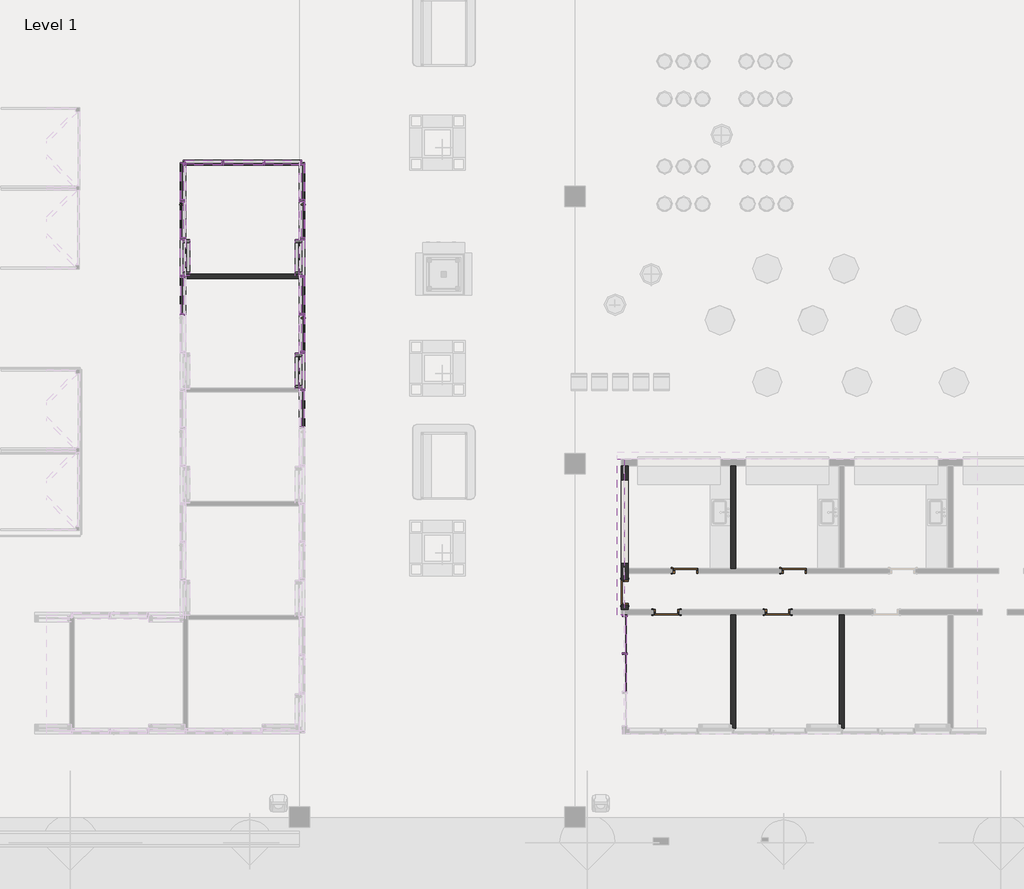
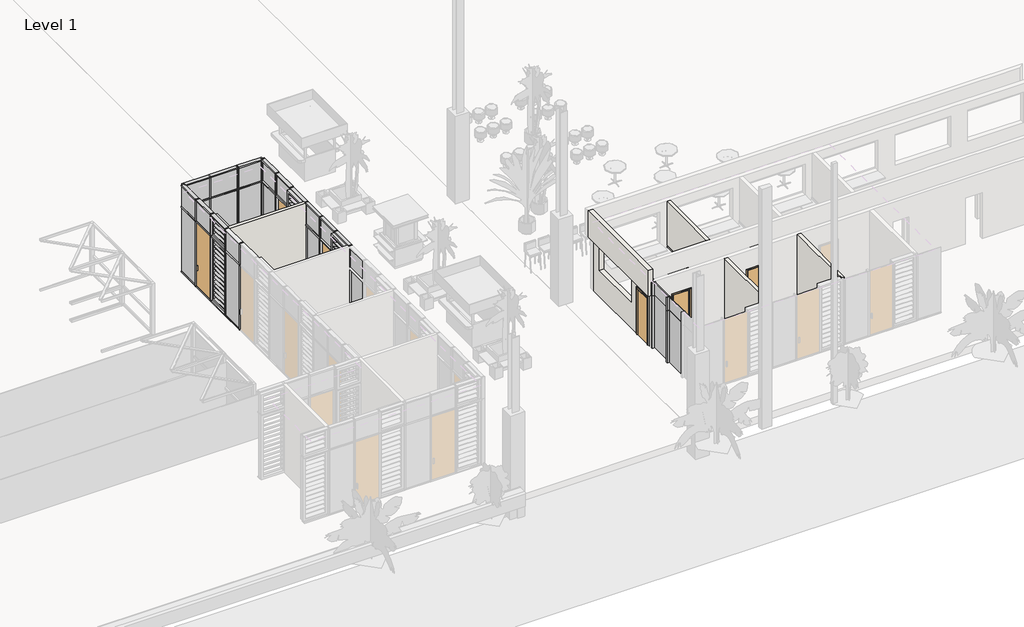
# One storey, part 9 of 32: 72 members, 29 plates, 8 doors, 6 walls.
"""IFC4 building model written with IfcOpenShell, lengths in millimetres."""

from ifc_helpers import new_model, si_unit, frame, origin, place, context, project, spatial, polyline, outline, extrude, faceted_brep, transform, mapped, element, save
from components import curtain_wall_door_single_glass_nz_curtain_wall_door_single_2bf20aac, curtain_wall_door_single_glass_nz_curtain_wall_door_single_ff8afd41, doors_intsgl_1_760x2110mm_a62a0124, doors_intsgl_1_760x2110mm_e27d8b5d, rectangular_mullion_50x150mm_c4504768, rectangular_mullion_50x150mm_6c7cb899, rectangular_mullion_50x150mm_b0af8bb0, rectangular_mullion_50x150mm_bbc1c4ea, rectangular_mullion_50x150mm_1a36453b, rectangular_mullion_50x150mm_a65b6ca2, rectangular_mullion_50x150mm_38419d34, rectangular_mullion_50x150mm_eeb88b28, rectangular_mullion_50x150mm_68c91185, rectangular_mullion_50x150mm_0d540e17, rectangular_mullion_50x150mm_ef3a484d, rectangular_mullion_50x150mm_108cdc6f, rectangular_mullion_50x150mm_593aaa1e, rectangular_mullion_50x150mm_662c37b1, rectangular_mullion_50x150mm_6225e4e3, rectangular_mullion_50x150mm_68b3818a, rectangular_mullion_50x150mm_64d38db8, rectangular_mullion_50x150mm_7b3c9b78, rectangular_mullion_50x150mm_52418214, rectangular_mullion_50x150mm_b6d5a799, rectangular_mullion_50x150mm_a681ed3b, curtain_wall_panel_louver_20805_curtain_wall_panel_louver_4af505d4, curtain_wall_panel_louver_20805_curtain_wall_panel_louver_14332c5b, curtain_wall_panel_glass_louver_20805_curtain_wall_panel_036772b2, curtain_wall_panel_glass_louver_20805_curtain_wall_panel_0f8e40a1, system_panel_glazed_a5e8ce8b, system_panel_glazed_2ffedfca, system_panel_glazed_7622d22c, system_panel_glazed_a434d42b, system_panel_glazed_53fe5bbb, system_panel_glazed_8b38113c, system_panel_glazed_64632876, system_panel_glazed_70b58251, system_panel_glazed_c2ca5c30, system_panel_glazed_300e6ed4, system_panel_glazed_c118dd0e, system_panel_glazed_1d5b51f5, system_panel_glazed_73f042a0, system_panel_solid_585523e5, system_panel_solid_81bf8050, system_panel_solid_746005ab, system_panel_solid_10c0fb46

model = new_model("IFC4")

# Units and contexts
model_context = context("Model", 3, world=origin())
ifc_project = project(units=[si_unit("LENGTHUNIT", "METRE", prefix="MILLI")], contexts=[model_context])

# Site, building, storey
site = spatial("IfcSite", under=ifc_project)
building = spatial("IfcBuilding", under=site)
storey = spatial("IfcBuildingStorey", under=building, Name="Level 1", Elevation=2800.0)

# Doors
placement = place(None, origin())
curtain_wall_door_single_glass_nz_curtain_wall_door_single_shape = curtain_wall_door_single_glass_nz_curtain_wall_door_single_2bf20aac(model_context)
element("IfcDoor", 1, ObjectType="Curtain Wall Door-Single-Glass (NZ) : Curtain Wall Door-Single-Glass (NZ)", at=placement, inside=storey, context=model_context, shape_type="MappedRepresentation", body=[
    mapped(curtain_wall_door_single_glass_nz_curtain_wall_door_single_shape, transform((-55155.3056755, -21755.9199596, 2850.0), x_axis=(0.0, -1.0, 0.0), y_axis=(1.0, 0.0, 0.0), z_axis=(0.0, 0.0, 1.0))),
])
element("IfcDoor", 2, ObjectType="Curtain Wall Door-Single-Glass (NZ) : Curtain Wall Door-Single-Glass (NZ)", at=placement, inside=storey, context=model_context, shape_type="MappedRepresentation", body=[
    mapped(curtain_wall_door_single_glass_nz_curtain_wall_door_single_shape, transform((-55155.3056755, -18455.9199596, 2850.0), x_axis=(0.0, -1.0, 0.0), y_axis=(1.0, 0.0, 0.0), z_axis=(0.0, 0.0, 1.0))),
])
curtain_wall_door_single_glass_nz_curtain_wall_door_single_2_shape = curtain_wall_door_single_glass_nz_curtain_wall_door_single_ff8afd41(model_context)
element("IfcDoor", 3, ObjectType="Curtain Wall Door-Single-Glass (NZ) : Curtain Wall Door-Single-Glass (NZ)", at=placement, inside=storey, context=model_context, shape_type="MappedRepresentation", body=[
    mapped(curtain_wall_door_single_glass_nz_curtain_wall_door_single_2_shape, transform((-58605.3056755, -18455.9199596, 2850.0), x_axis=(0.0, -1.0, 0.0), y_axis=(1.0, 0.0, 0.0), z_axis=(0.0, 0.0, 1.0))),
])
doors_intsgl_1_760x2110mm_shape = doors_intsgl_1_760x2110mm_a62a0124(model_context)
element("IfcDoor", 4, ObjectType="Doors_IntSgl_1 : 760x2110mm", at=placement, inside=storey, context=model_context, shape_type="MappedRepresentation", body=[
    mapped(doors_intsgl_1_760x2110mm_shape, transform((-44575.9339353, -29855.9199596, 2800.0), x_axis=(-1.0, 0.0, 0.0), y_axis=(0.0, -1.0, 0.0), z_axis=(0.0, 0.0, 1.0))),
])
element("IfcDoor", 5, ObjectType="Doors_IntSgl_1 : 760x2110mm", at=placement, inside=storey, context=model_context, shape_type="MappedRepresentation", body=[
    mapped(doors_intsgl_1_760x2110mm_shape, transform((-41350.9339353, -29855.9199596, 2800.0), x_axis=(-1.0, 0.0, 0.0), y_axis=(0.0, -1.0, 0.0), z_axis=(0.0, 0.0, 1.0))),
])
element("IfcDoor", 6, ObjectType="Doors_IntSgl_1 : 760x2110mm", at=placement, inside=storey, context=model_context, shape_type="MappedRepresentation", body=[
    mapped(doors_intsgl_1_760x2110mm_shape, transform((-40871.3056755, -28655.9199596, 2800.0), x_axis=(1.0, 0.0, 0.0), y_axis=(0.0, 1.0, 0.0), z_axis=(0.0, 0.0, 1.0))),
])
element("IfcDoor", 7, ObjectType="Doors_IntSgl_1 : 760x2110mm", at=placement, inside=storey, context=model_context, shape_type="MappedRepresentation", body=[
    mapped(doors_intsgl_1_760x2110mm_shape, transform((-44021.3056755, -28655.9199596, 2800.0), x_axis=(1.0, 0.0, 0.0), y_axis=(0.0, 1.0, 0.0), z_axis=(0.0, 0.0, 1.0))),
])
doors_intsgl_1_760x2110mm_2_shape = doors_intsgl_1_760x2110mm_e27d8b5d(model_context)
element("IfcDoor", 8, ObjectType="Doors_IntSgl_1 : 760x2110mm", at=placement, inside=storey, context=model_context, shape_type="MappedRepresentation", body=[
    mapped(doors_intsgl_1_760x2110mm_2_shape, transform((-45785.9339353, -29280.9199596, 2800.0), x_axis=(0.0, 1.0, 0.0), y_axis=(-1.0, 0.0, 0.0), z_axis=(0.0, 0.0, 1.0))),
])

# Members
rectangular_mullion_50x150mm_shape = rectangular_mullion_50x150mm_c4504768(model_context)
element("IfcMember", 9, ObjectType="Rectangular Mullion : 50x150mm", at=placement, inside=storey, context=model_context, shape_type="MappedRepresentation", body=[
    mapped(rectangular_mullion_50x150mm_shape, transform((-55155.3056755, -23380.9199596, 5800.0), x_axis=(0.0, 0.0, 1.0), y_axis=(-1.0, 0.0, 0.0), z_axis=(0.0, -1.0, 0.0))),
])
element("IfcMember", 10, ObjectType="Rectangular Mullion : 50x150mm", at=placement, inside=storey, context=model_context, shape_type="MappedRepresentation", body=[
    mapped(rectangular_mullion_50x150mm_shape, transform((-55155.3056755, -22280.9199596, 5800.0), x_axis=(0.0, 0.0, 1.0), y_axis=(-1.0, 0.0, 0.0), z_axis=(0.0, -1.0, 0.0))),
])
element("IfcMember", 11, ObjectType="Rectangular Mullion : 50x150mm", at=placement, inside=storey, context=model_context, shape_type="MappedRepresentation", body=[
    mapped(rectangular_mullion_50x150mm_shape, transform((-55155.3056755, -20080.9199596, 5800.0), x_axis=(0.0, 0.0, 1.0), y_axis=(-1.0, 0.0, 0.0), z_axis=(0.0, -1.0, 0.0))),
])
element("IfcMember", 12, ObjectType="Rectangular Mullion : 50x150mm", at=placement, inside=storey, context=model_context, shape_type="MappedRepresentation", body=[
    mapped(rectangular_mullion_50x150mm_shape, transform((-55155.3056755, -18980.9199596, 5800.0), x_axis=(0.0, 0.0, 1.0), y_axis=(-1.0, 0.0, 0.0), z_axis=(0.0, -1.0, 0.0))),
])
element("IfcMember", 13, ObjectType="Rectangular Mullion : 50x150mm", at=placement, inside=storey, context=model_context, shape_type="MappedRepresentation", body=[
    mapped(rectangular_mullion_50x150mm_shape, transform((-55155.3056755, -21180.9199596, 5800.0), x_axis=(0.0, 0.0, 1.0), y_axis=(-1.0, 0.0, 0.0), z_axis=(0.0, -1.0, 0.0))),
])
rectangular_mullion_50x150mm_2_shape = rectangular_mullion_50x150mm_6c7cb899(model_context)
element("IfcMember", 14, ObjectType="Rectangular Mullion : 50x150mm", at=placement, inside=storey, context=model_context, shape_type="MappedRepresentation", body=[
    mapped(rectangular_mullion_50x150mm_2_shape, transform((-55155.3056755, -23405.9199596, 2800.0), x_axis=(0.0, -1.0, 0.0), y_axis=(-1.0, 0.0, 0.0), z_axis=(0.0, 0.0, -1.0))),
])
element("IfcMember", 15, ObjectType="Rectangular Mullion : 50x150mm", at=placement, inside=storey, context=model_context, shape_type="MappedRepresentation", body=[
    mapped(rectangular_mullion_50x150mm_2_shape, transform((-55155.3056755, -22305.9199596, 2800.0), x_axis=(0.0, -1.0, 0.0), y_axis=(-1.0, 0.0, 0.0), z_axis=(0.0, 0.0, -1.0))),
])
element("IfcMember", 16, ObjectType="Rectangular Mullion : 50x150mm", at=placement, inside=storey, context=model_context, shape_type="MappedRepresentation", body=[
    mapped(rectangular_mullion_50x150mm_2_shape, transform((-55155.3056755, -21205.9199596, 2800.0), x_axis=(0.0, -1.0, 0.0), y_axis=(-1.0, 0.0, 0.0), z_axis=(0.0, 0.0, -1.0))),
])
element("IfcMember", 17, ObjectType="Rectangular Mullion : 50x150mm", at=placement, inside=storey, context=model_context, shape_type="MappedRepresentation", body=[
    mapped(rectangular_mullion_50x150mm_2_shape, transform((-55155.3056755, -20105.9199596, 2800.0), x_axis=(0.0, -1.0, 0.0), y_axis=(-1.0, 0.0, 0.0), z_axis=(0.0, 0.0, -1.0))),
])
element("IfcMember", 18, ObjectType="Rectangular Mullion : 50x150mm", at=placement, inside=storey, context=model_context, shape_type="MappedRepresentation", body=[
    mapped(rectangular_mullion_50x150mm_2_shape, transform((-55155.3056755, -19005.9199596, 2800.0), x_axis=(0.0, -1.0, 0.0), y_axis=(-1.0, 0.0, 0.0), z_axis=(0.0, 0.0, -1.0))),
])
element("IfcMember", 19, ObjectType="Rectangular Mullion : 50x150mm", at=placement, inside=storey, context=model_context, shape_type="MappedRepresentation", body=[
    mapped(rectangular_mullion_50x150mm_2_shape, transform((-55155.3056755, -17905.9199596, 2800.0), x_axis=(0.0, -1.0, 0.0), y_axis=(-1.0, 0.0, 0.0), z_axis=(0.0, 0.0, -1.0))),
])
element("IfcMember", 20, ObjectType="Rectangular Mullion : 50x150mm", at=placement, inside=storey, context=model_context, shape_type="MappedRepresentation", body=[
    mapped(rectangular_mullion_50x150mm_2_shape, transform((-56255.3056755, -16805.9199596, 2800.0), x_axis=(-1.0, 0.0, 0.0), y_axis=(0.0, 1.0, 0.0), z_axis=(0.0, 0.0, -1.0))),
])
element("IfcMember", 21, ObjectType="Rectangular Mullion : 50x150mm", at=placement, inside=storey, context=model_context, shape_type="MappedRepresentation", body=[
    mapped(rectangular_mullion_50x150mm_2_shape, transform((-57455.3056753, -16805.9199596, 2800.0), x_axis=(-1.0, 0.0, 0.0), y_axis=(0.0, 1.0, 0.0), z_axis=(0.0, 0.0, -1.0))),
])
rectangular_mullion_50x150mm_3_shape = rectangular_mullion_50x150mm_b0af8bb0(model_context)
element("IfcMember", 22, ObjectType="Rectangular Mullion : 50x150mm", at=placement, inside=storey, context=model_context, shape_type="MappedRepresentation", body=[
    mapped(rectangular_mullion_50x150mm_3_shape, transform((-55155.3056755, -23430.9199596, 2800.0), x_axis=(0.0, 0.0, -1.0), y_axis=(-1.0, 0.0, 0.0), z_axis=(0.0, 1.0, 0.0))),
])
element("IfcMember", 23, ObjectType="Rectangular Mullion : 50x150mm", at=placement, inside=storey, context=model_context, shape_type="MappedRepresentation", body=[
    mapped(rectangular_mullion_50x150mm_3_shape, transform((-55155.3056755, -22330.9199596, 2800.0), x_axis=(0.0, 0.0, -1.0), y_axis=(-1.0, 0.0, 0.0), z_axis=(0.0, 1.0, 0.0))),
])
element("IfcMember", 24, ObjectType="Rectangular Mullion : 50x150mm", at=placement, inside=storey, context=model_context, shape_type="MappedRepresentation", body=[
    mapped(rectangular_mullion_50x150mm_3_shape, transform((-55155.3056755, -21230.9199596, 2800.0), x_axis=(0.0, 0.0, -1.0), y_axis=(-1.0, 0.0, 0.0), z_axis=(0.0, 1.0, 0.0))),
])
element("IfcMember", 25, ObjectType="Rectangular Mullion : 50x150mm", at=placement, inside=storey, context=model_context, shape_type="MappedRepresentation", body=[
    mapped(rectangular_mullion_50x150mm_3_shape, transform((-55155.3056755, -19030.9199596, 2800.0), x_axis=(0.0, 0.0, -1.0), y_axis=(-1.0, 0.0, 0.0), z_axis=(0.0, 1.0, 0.0))),
])
element("IfcMember", 26, ObjectType="Rectangular Mullion : 50x150mm", at=placement, inside=storey, context=model_context, shape_type="MappedRepresentation", body=[
    mapped(rectangular_mullion_50x150mm_3_shape, transform((-55155.3056755, -17930.9199596, 2800.0), x_axis=(0.0, 0.0, -1.0), y_axis=(-1.0, 0.0, 0.0), z_axis=(0.0, 1.0, 0.0))),
])
element("IfcMember", 27, ObjectType="Rectangular Mullion : 50x150mm", at=placement, inside=storey, context=model_context, shape_type="MappedRepresentation", body=[
    mapped(rectangular_mullion_50x150mm_3_shape, transform((-55155.3056755, -20130.9199596, 2800.0), x_axis=(0.0, 0.0, -1.0), y_axis=(-1.0, 0.0, 0.0), z_axis=(0.0, 1.0, 0.0))),
])
rectangular_mullion_50x150mm_4_shape = rectangular_mullion_50x150mm_bbc1c4ea(model_context)
element("IfcMember", 28, ObjectType="Rectangular Mullion : 50x150mm", at=placement, inside=storey, context=model_context, shape_type="MappedRepresentation", body=[
    mapped(rectangular_mullion_50x150mm_4_shape, transform((-55155.3056755, -23405.9199596, 5800.0), x_axis=(0.0, -1.0, 0.0), y_axis=(-1.0, 0.0, 0.0), z_axis=(0.0, 0.0, -1.0))),
])
element("IfcMember", 29, ObjectType="Rectangular Mullion : 50x150mm", at=placement, inside=storey, context=model_context, shape_type="MappedRepresentation", body=[
    mapped(rectangular_mullion_50x150mm_4_shape, transform((-55155.3056755, -22305.9199596, 5800.0), x_axis=(0.0, -1.0, 0.0), y_axis=(-1.0, 0.0, 0.0), z_axis=(0.0, 0.0, -1.0))),
])
element("IfcMember", 30, ObjectType="Rectangular Mullion : 50x150mm", at=placement, inside=storey, context=model_context, shape_type="MappedRepresentation", body=[
    mapped(rectangular_mullion_50x150mm_4_shape, transform((-55155.3056755, -21205.9199596, 5800.0), x_axis=(0.0, -1.0, 0.0), y_axis=(-1.0, 0.0, 0.0), z_axis=(0.0, 0.0, -1.0))),
])
element("IfcMember", 31, ObjectType="Rectangular Mullion : 50x150mm", at=placement, inside=storey, context=model_context, shape_type="MappedRepresentation", body=[
    mapped(rectangular_mullion_50x150mm_4_shape, transform((-55155.3056755, -20105.9199596, 5800.0), x_axis=(0.0, -1.0, 0.0), y_axis=(-1.0, 0.0, 0.0), z_axis=(0.0, 0.0, -1.0))),
])
element("IfcMember", 32, ObjectType="Rectangular Mullion : 50x150mm", at=placement, inside=storey, context=model_context, shape_type="MappedRepresentation", body=[
    mapped(rectangular_mullion_50x150mm_4_shape, transform((-55155.3056755, -19005.9199596, 5800.0), x_axis=(0.0, -1.0, 0.0), y_axis=(-1.0, 0.0, 0.0), z_axis=(0.0, 0.0, -1.0))),
])
element("IfcMember", 33, ObjectType="Rectangular Mullion : 50x150mm", at=placement, inside=storey, context=model_context, shape_type="MappedRepresentation", body=[
    mapped(rectangular_mullion_50x150mm_4_shape, transform((-55155.3056755, -17905.9199596, 5800.0), x_axis=(0.0, -1.0, 0.0), y_axis=(-1.0, 0.0, 0.0), z_axis=(0.0, 0.0, -1.0))),
])
element("IfcMember", 34, ObjectType="Rectangular Mullion : 50x150mm", at=placement, inside=storey, context=model_context, shape_type="MappedRepresentation", body=[
    mapped(rectangular_mullion_50x150mm_4_shape, transform((-56255.3056755, -16805.9199596, 5800.0), x_axis=(-1.0, 0.0, 0.0), y_axis=(0.0, 1.0, 0.0), z_axis=(0.0, 0.0, -1.0))),
])
element("IfcMember", 35, ObjectType="Rectangular Mullion : 50x150mm", at=placement, inside=storey, context=model_context, shape_type="MappedRepresentation", body=[
    mapped(rectangular_mullion_50x150mm_4_shape, transform((-57455.3056753, -16805.9199596, 5800.0), x_axis=(-1.0, 0.0, 0.0), y_axis=(0.0, 1.0, 0.0), z_axis=(0.0, 0.0, -1.0))),
])
rectangular_mullion_50x150mm_5_shape = rectangular_mullion_50x150mm_1a36453b(model_context)
element("IfcMember", 36, ObjectType="Rectangular Mullion : 50x150mm", at=placement, inside=storey, context=model_context, shape_type="MappedRepresentation", body=[
    mapped(rectangular_mullion_50x150mm_5_shape, transform((-55155.3056755, -23380.9199596, 6800.0), x_axis=(0.0, 0.0, 1.0), y_axis=(-1.0, 0.0, 0.0), z_axis=(0.0, -1.0, 0.0))),
])
element("IfcMember", 37, ObjectType="Rectangular Mullion : 50x150mm", at=placement, inside=storey, context=model_context, shape_type="MappedRepresentation", body=[
    mapped(rectangular_mullion_50x150mm_5_shape, transform((-55155.3056755, -22280.9199596, 6800.0), x_axis=(0.0, 0.0, 1.0), y_axis=(-1.0, 0.0, 0.0), z_axis=(0.0, -1.0, 0.0))),
])
element("IfcMember", 38, ObjectType="Rectangular Mullion : 50x150mm", at=placement, inside=storey, context=model_context, shape_type="MappedRepresentation", body=[
    mapped(rectangular_mullion_50x150mm_5_shape, transform((-55155.3056755, -21180.9199596, 6800.0), x_axis=(0.0, 0.0, 1.0), y_axis=(-1.0, 0.0, 0.0), z_axis=(0.0, -1.0, 0.0))),
])
element("IfcMember", 39, ObjectType="Rectangular Mullion : 50x150mm", at=placement, inside=storey, context=model_context, shape_type="MappedRepresentation", body=[
    mapped(rectangular_mullion_50x150mm_5_shape, transform((-55155.3056755, -18980.9199596, 6800.0), x_axis=(0.0, 0.0, 1.0), y_axis=(-1.0, 0.0, 0.0), z_axis=(0.0, -1.0, 0.0))),
])
element("IfcMember", 40, ObjectType="Rectangular Mullion : 50x150mm", at=placement, inside=storey, context=model_context, shape_type="MappedRepresentation", body=[
    mapped(rectangular_mullion_50x150mm_5_shape, transform((-55155.3056755, -20080.9199596, 6800.0), x_axis=(0.0, 0.0, 1.0), y_axis=(-1.0, 0.0, 0.0), z_axis=(0.0, -1.0, 0.0))),
])
rectangular_mullion_50x150mm_6_shape = rectangular_mullion_50x150mm_a65b6ca2(model_context)
element("IfcMember", 41, ObjectType="Rectangular Mullion : 50x150mm", at=placement, inside=storey, context=model_context, shape_type="MappedRepresentation", body=[
    mapped(rectangular_mullion_50x150mm_6_shape, transform((-55155.3056755, -17880.9199596, 6800.0), x_axis=(0.0, 0.0, 1.0), y_axis=(-1.0, 0.0, 0.0), z_axis=(0.0, -1.0, 0.0))),
])
element("IfcMember", 42, ObjectType="Rectangular Mullion : 50x150mm", at=placement, inside=storey, context=model_context, shape_type="MappedRepresentation", body=[
    mapped(rectangular_mullion_50x150mm_6_shape, transform((-56230.3056755, -16805.9199596, 6800.0), x_axis=(0.0, 0.0, 1.0), y_axis=(0.0, 1.0, 0.0), z_axis=(-1.0, 0.0, 0.0))),
])
element("IfcMember", 43, ObjectType="Rectangular Mullion : 50x150mm", at=placement, inside=storey, context=model_context, shape_type="MappedRepresentation", body=[
    mapped(rectangular_mullion_50x150mm_6_shape, transform((-55155.3056755, -16855.9199596, 2800.0), x_axis=(0.0, 0.0, -1.0), y_axis=(-1.0, 0.0, 0.0), z_axis=(0.0, 1.0, 0.0))),
])
element("IfcMember", 44, ObjectType="Rectangular Mullion : 50x150mm", at=placement, inside=storey, context=model_context, shape_type="MappedRepresentation", body=[
    mapped(rectangular_mullion_50x150mm_6_shape, transform((-55205.3056755, -16805.9199596, 2800.0), x_axis=(0.0, 0.0, -1.0), y_axis=(0.0, 1.0, 0.0), z_axis=(1.0, 0.0, 0.0))),
])
rectangular_mullion_50x150mm_7_shape = rectangular_mullion_50x150mm_38419d34(model_context)
element("IfcMember", 45, ObjectType="Rectangular Mullion : 50x150mm", at=placement, inside=storey, context=model_context, shape_type="MappedRepresentation", body=[
    mapped(rectangular_mullion_50x150mm_7_shape, transform((-55155.3056755, -17880.9199596, 5800.0), x_axis=(0.0, 0.0, 1.0), y_axis=(-1.0, 0.0, 0.0), z_axis=(0.0, -1.0, 0.0))),
])
element("IfcMember", 46, ObjectType="Rectangular Mullion : 50x150mm", at=placement, inside=storey, context=model_context, shape_type="MappedRepresentation", body=[
    mapped(rectangular_mullion_50x150mm_7_shape, transform((-56230.3056755, -16805.9199596, 5800.0), x_axis=(0.0, 0.0, 1.0), y_axis=(0.0, 1.0, 0.0), z_axis=(-1.0, 0.0, 0.0))),
])
rectangular_mullion_50x150mm_8_shape = rectangular_mullion_50x150mm_eeb88b28(model_context)
element("IfcMember", 47, ObjectType="Rectangular Mullion : 50x150mm", at=placement, inside=storey, context=model_context, shape_type="MappedRepresentation", body=[
    mapped(rectangular_mullion_50x150mm_8_shape, transform((-55155.3056755, -16805.9199596, 6800.0), x_axis=(0.0, 1.0, 0.0), y_axis=(-1.0, 0.0, 0.0), z_axis=(0.0, 0.0, 1.0))),
])
element("IfcMember", 48, ObjectType="Rectangular Mullion : 50x150mm", at=placement, inside=storey, context=model_context, shape_type="MappedRepresentation", body=[
    mapped(rectangular_mullion_50x150mm_8_shape, transform((-55155.3056755, -16805.9199596, 6800.0), x_axis=(1.0, 0.0, 0.0), y_axis=(0.0, 1.0, 0.0), z_axis=(0.0, 0.0, 1.0))),
])
rectangular_mullion_50x150mm_9_shape = rectangular_mullion_50x150mm_68c91185(model_context)
element("IfcMember", 49, ObjectType="Rectangular Mullion : 50x150mm", at=placement, inside=storey, context=model_context, shape_type="MappedRepresentation", body=[
    mapped(rectangular_mullion_50x150mm_9_shape, transform((-58605.3056755, -16805.9199596, 2800.0), x_axis=(-1.0, 0.0, 0.0), y_axis=(0.0, 1.0, 0.0), z_axis=(0.0, 0.0, -1.0))),
])
element("IfcMember", 50, ObjectType="Rectangular Mullion : 50x150mm", at=placement, inside=storey, context=model_context, shape_type="MappedRepresentation", body=[
    mapped(rectangular_mullion_50x150mm_8_shape, transform((-58605.3056755, -16805.9199596, 5800.0), x_axis=(-1.0, 0.0, 0.0), y_axis=(0.0, 1.0, 0.0), z_axis=(0.0, 0.0, -1.0))),
])
element("IfcMember", 51, ObjectType="Rectangular Mullion : 50x150mm", at=placement, inside=storey, context=model_context, shape_type="MappedRepresentation", body=[
    mapped(rectangular_mullion_50x150mm_9_shape, transform((-55155.3056755, -16805.9199596, 5800.0), x_axis=(0.0, 1.0, 0.0), y_axis=(-1.0, 0.0, 0.0), z_axis=(0.0, 0.0, 1.0))),
])
element("IfcMember", 52, ObjectType="Rectangular Mullion : 50x150mm", at=placement, inside=storey, context=model_context, shape_type="MappedRepresentation", body=[
    mapped(rectangular_mullion_50x150mm_9_shape, transform((-55155.3056755, -16805.9199596, 5800.0), x_axis=(1.0, 0.0, 0.0), y_axis=(0.0, 1.0, 0.0), z_axis=(0.0, 0.0, 1.0))),
])
element("IfcMember", 53, ObjectType="Rectangular Mullion : 50x150mm", at=placement, inside=storey, context=model_context, shape_type="MappedRepresentation", body=[
    mapped(rectangular_mullion_50x150mm_4_shape, transform((-58605.3056755, -21205.9199596, 5800.0), x_axis=(0.0, -1.0, 0.0), y_axis=(-1.0, 0.0, 0.0), z_axis=(0.0, 0.0, -1.0))),
])
element("IfcMember", 54, ObjectType="Rectangular Mullion : 50x150mm", at=placement, inside=storey, context=model_context, shape_type="MappedRepresentation", body=[
    mapped(rectangular_mullion_50x150mm_4_shape, transform((-58605.3056755, -20105.9199596, 5800.0), x_axis=(0.0, -1.0, 0.0), y_axis=(-1.0, 0.0, 0.0), z_axis=(0.0, 0.0, -1.0))),
])
element("IfcMember", 55, ObjectType="Rectangular Mullion : 50x150mm", at=placement, inside=storey, context=model_context, shape_type="MappedRepresentation", body=[
    mapped(rectangular_mullion_50x150mm_4_shape, transform((-58605.3056755, -19005.9199596, 5800.0), x_axis=(0.0, -1.0, 0.0), y_axis=(-1.0, 0.0, 0.0), z_axis=(0.0, 0.0, -1.0))),
])
element("IfcMember", 56, ObjectType="Rectangular Mullion : 50x150mm", at=placement, inside=storey, context=model_context, shape_type="MappedRepresentation", body=[
    mapped(rectangular_mullion_50x150mm_4_shape, transform((-58605.3056755, -17905.9199596, 5800.0), x_axis=(0.0, -1.0, 0.0), y_axis=(-1.0, 0.0, 0.0), z_axis=(0.0, 0.0, -1.0))),
])
element("IfcMember", 57, ObjectType="Rectangular Mullion : 50x150mm", at=placement, inside=storey, context=model_context, shape_type="MappedRepresentation", body=[
    mapped(rectangular_mullion_50x150mm_2_shape, transform((-58605.3056755, -21205.9199596, 2800.0), x_axis=(0.0, -1.0, 0.0), y_axis=(-1.0, 0.0, 0.0), z_axis=(0.0, 0.0, -1.0))),
])
element("IfcMember", 58, ObjectType="Rectangular Mullion : 50x150mm", at=placement, inside=storey, context=model_context, shape_type="MappedRepresentation", body=[
    mapped(rectangular_mullion_50x150mm_2_shape, transform((-58605.3056755, -20105.9199596, 2800.0), x_axis=(0.0, -1.0, 0.0), y_axis=(-1.0, 0.0, 0.0), z_axis=(0.0, 0.0, -1.0))),
])
element("IfcMember", 59, ObjectType="Rectangular Mullion : 50x150mm", at=placement, inside=storey, context=model_context, shape_type="MappedRepresentation", body=[
    mapped(rectangular_mullion_50x150mm_2_shape, transform((-58605.3056755, -19005.9199596, 2800.0), x_axis=(0.0, -1.0, 0.0), y_axis=(-1.0, 0.0, 0.0), z_axis=(0.0, 0.0, -1.0))),
])
element("IfcMember", 60, ObjectType="Rectangular Mullion : 50x150mm", at=placement, inside=storey, context=model_context, shape_type="MappedRepresentation", body=[
    mapped(rectangular_mullion_50x150mm_2_shape, transform((-58605.3056755, -17905.9199596, 2800.0), x_axis=(0.0, -1.0, 0.0), y_axis=(-1.0, 0.0, 0.0), z_axis=(0.0, 0.0, -1.0))),
])
rectangular_mullion_50x150mm_10_shape = rectangular_mullion_50x150mm_0d540e17(model_context)
element("IfcMember", 61, ObjectType="Rectangular Mullion : 50x150mm", at=placement, inside=storey, context=model_context, shape_type="MappedRepresentation", body=[
    mapped(rectangular_mullion_50x150mm_10_shape, transform((-58605.3056755, -20080.9199596, 5800.0), x_axis=(0.0, 0.0, 1.0), y_axis=(-1.0, 0.0, 0.0), z_axis=(0.0, -1.0, 0.0))),
])
element("IfcMember", 62, ObjectType="Rectangular Mullion : 50x150mm", at=placement, inside=storey, context=model_context, shape_type="MappedRepresentation", body=[
    mapped(rectangular_mullion_50x150mm_10_shape, transform((-58605.3056755, -18980.9199596, 5800.0), x_axis=(0.0, 0.0, 1.0), y_axis=(-1.0, 0.0, 0.0), z_axis=(0.0, -1.0, 0.0))),
])
rectangular_mullion_50x150mm_11_shape = rectangular_mullion_50x150mm_ef3a484d(model_context)
element("IfcMember", 63, ObjectType="Rectangular Mullion : 50x150mm", at=placement, inside=storey, context=model_context, shape_type="MappedRepresentation", body=[
    mapped(rectangular_mullion_50x150mm_11_shape, transform((-58605.3056755, -17880.9199596, 5800.0), x_axis=(0.0, 0.0, 1.0), y_axis=(-1.0, 0.0, 0.0), z_axis=(0.0, -1.0, 0.0))),
])
rectangular_mullion_50x150mm_12_shape = rectangular_mullion_50x150mm_108cdc6f(model_context)
element("IfcMember", 64, ObjectType="Rectangular Mullion : 50x150mm", at=placement, inside=storey, context=model_context, shape_type="MappedRepresentation", body=[
    mapped(rectangular_mullion_50x150mm_12_shape, transform((-58605.3056755, -19030.9199596, 2800.0), x_axis=(0.0, 0.0, -1.0), y_axis=(-1.0, 0.0, 0.0), z_axis=(0.0, 1.0, 0.0))),
])
element("IfcMember", 65, ObjectType="Rectangular Mullion : 50x150mm", at=placement, inside=storey, context=model_context, shape_type="MappedRepresentation", body=[
    mapped(rectangular_mullion_50x150mm_12_shape, transform((-58605.3056755, -17930.9199596, 2800.0), x_axis=(0.0, 0.0, -1.0), y_axis=(-1.0, 0.0, 0.0), z_axis=(0.0, 1.0, 0.0))),
])
element("IfcMember", 66, ObjectType="Rectangular Mullion : 50x150mm", at=placement, inside=storey, context=model_context, shape_type="MappedRepresentation", body=[
    mapped(rectangular_mullion_50x150mm_12_shape, transform((-58605.3056755, -20130.9199596, 2800.0), x_axis=(0.0, 0.0, -1.0), y_axis=(-1.0, 0.0, 0.0), z_axis=(0.0, 1.0, 0.0))),
])
rectangular_mullion_50x150mm_13_shape = rectangular_mullion_50x150mm_593aaa1e(model_context)
element("IfcMember", 67, ObjectType="Rectangular Mullion : 50x150mm", at=placement, inside=storey, context=model_context, shape_type="MappedRepresentation", body=[
    mapped(rectangular_mullion_50x150mm_13_shape, transform((-58605.3056755, -16805.9199597, 2800.0), x_axis=(0.0, 0.0, -1.0), y_axis=(-1.0, 0.0, 0.0), z_axis=(0.0, 1.0, 0.0))),
])
element("IfcMember", 68, ObjectType="Rectangular Mullion : 50x150mm", at=placement, inside=storey, context=model_context, shape_type="MappedRepresentation", body=[
    mapped(rectangular_mullion_50x150mm_5_shape, transform((-58605.3056755, -18980.9199596, 6800.0), x_axis=(0.0, 0.0, 1.0), y_axis=(-1.0, 0.0, 0.0), z_axis=(0.0, -1.0, 0.0))),
])
element("IfcMember", 69, ObjectType="Rectangular Mullion : 50x150mm", at=placement, inside=storey, context=model_context, shape_type="MappedRepresentation", body=[
    mapped(rectangular_mullion_50x150mm_5_shape, transform((-58605.3056755, -20080.9199596, 6800.0), x_axis=(0.0, 0.0, 1.0), y_axis=(-1.0, 0.0, 0.0), z_axis=(0.0, -1.0, 0.0))),
])
element("IfcMember", 70, ObjectType="Rectangular Mullion : 50x150mm", at=placement, inside=storey, context=model_context, shape_type="MappedRepresentation", body=[
    mapped(rectangular_mullion_50x150mm_13_shape, transform((-58605.3056755, -17880.9199596, 6800.0), x_axis=(0.0, 0.0, 1.0), y_axis=(-1.0, 0.0, 0.0), z_axis=(0.0, -1.0, 0.0))),
])
rectangular_mullion_50x150mm_14_shape = rectangular_mullion_50x150mm_662c37b1(model_context)
element("IfcMember", 71, ObjectType="Rectangular Mullion : 50x150mm", at=placement, inside=storey, context=model_context, shape_type="MappedRepresentation", body=[
    mapped(rectangular_mullion_50x150mm_14_shape, transform((-45785.9339353, -29930.9199596, 5200.0), x_axis=(0.0, 1.0, 0.0), y_axis=(-1.0, 0.0, 0.0), z_axis=(0.0, 0.0, 1.0))),
])
rectangular_mullion_50x150mm_15_shape = rectangular_mullion_50x150mm_6225e4e3(model_context)
element("IfcMember", 72, ObjectType="Rectangular Mullion : 50x150mm", at=placement, inside=storey, context=model_context, shape_type="MappedRepresentation", body=[
    mapped(rectangular_mullion_50x150mm_15_shape, transform((-45785.9339353, -31055.9199597, 2800.0), x_axis=(0.0, -1.0, 0.0), y_axis=(-1.0, 0.0, 0.0), z_axis=(0.0, 0.0, -1.0))),
])
rectangular_mullion_50x150mm_16_shape = rectangular_mullion_50x150mm_68b3818a(model_context)
element("IfcMember", 73, ObjectType="Rectangular Mullion : 50x150mm", at=placement, inside=storey, context=model_context, shape_type="MappedRepresentation", body=[
    mapped(rectangular_mullion_50x150mm_16_shape, transform((-45785.9339353, -31055.9199597, 5200.0), x_axis=(0.0, -1.0, 0.0), y_axis=(-1.0, 0.0, 0.0), z_axis=(0.0, 0.0, -1.0))),
])
rectangular_mullion_50x150mm_17_shape = rectangular_mullion_50x150mm_64d38db8(model_context)
element("IfcMember", 74, ObjectType="Rectangular Mullion : 50x150mm", at=placement, inside=storey, context=model_context, shape_type="MappedRepresentation", body=[
    mapped(rectangular_mullion_50x150mm_17_shape, transform((-45785.9339353, -29930.9199596, 5800.0), x_axis=(0.0, 1.0, 0.0), y_axis=(-1.0, 0.0, 0.0), z_axis=(0.0, 0.0, 1.0))),
])
rectangular_mullion_50x150mm_18_shape = rectangular_mullion_50x150mm_7b3c9b78(model_context)
element("IfcMember", 75, ObjectType="Rectangular Mullion : 50x150mm", at=placement, inside=storey, context=model_context, shape_type="MappedRepresentation", body=[
    mapped(rectangular_mullion_50x150mm_18_shape, transform((-57480.3056753, -16805.9199596, 2800.0), x_axis=(0.0, 0.0, -1.0), y_axis=(0.0, 1.0, 0.0), z_axis=(1.0, 0.0, 0.0))),
])
element("IfcMember", 76, ObjectType="Rectangular Mullion : 50x150mm", at=placement, inside=storey, context=model_context, shape_type="MappedRepresentation", body=[
    mapped(rectangular_mullion_50x150mm_18_shape, transform((-58555.3056755, -16805.9199596, 6800.0), x_axis=(0.0, 0.0, 1.0), y_axis=(0.0, 1.0, 0.0), z_axis=(-1.0, 0.0, 0.0))),
])
rectangular_mullion_50x150mm_19_shape = rectangular_mullion_50x150mm_52418214(model_context)
element("IfcMember", 77, ObjectType="Rectangular Mullion : 50x150mm", at=placement, inside=storey, context=model_context, shape_type="MappedRepresentation", body=[
    mapped(rectangular_mullion_50x150mm_19_shape, transform((-58555.3056755, -16805.9199596, 5800.0), x_axis=(0.0, 0.0, 1.0), y_axis=(0.0, 1.0, 0.0), z_axis=(-1.0, 0.0, 0.0))),
])
rectangular_mullion_50x150mm_20_shape = rectangular_mullion_50x150mm_b6d5a799(model_context)
element("IfcMember", 78, ObjectType="Rectangular Mullion : 50x150mm", at=placement, inside=storey, context=model_context, shape_type="MappedRepresentation", body=[
    mapped(rectangular_mullion_50x150mm_20_shape, transform((-56280.3056755, -16805.9199596, 2800.0), x_axis=(0.0, 0.0, -1.0), y_axis=(0.0, 1.0, 0.0), z_axis=(1.0, 0.0, 0.0))),
])
element("IfcMember", 79, ObjectType="Rectangular Mullion : 50x150mm", at=placement, inside=storey, context=model_context, shape_type="MappedRepresentation", body=[
    mapped(rectangular_mullion_50x150mm_20_shape, transform((-57430.3056753, -16805.9199596, 6800.0), x_axis=(0.0, 0.0, 1.0), y_axis=(0.0, 1.0, 0.0), z_axis=(-1.0, 0.0, 0.0))),
])
rectangular_mullion_50x150mm_21_shape = rectangular_mullion_50x150mm_a681ed3b(model_context)
element("IfcMember", 80, ObjectType="Rectangular Mullion : 50x150mm", at=placement, inside=storey, context=model_context, shape_type="MappedRepresentation", body=[
    mapped(rectangular_mullion_50x150mm_21_shape, transform((-57430.3056753, -16805.9199596, 5800.0), x_axis=(0.0, 0.0, 1.0), y_axis=(0.0, 1.0, 0.0), z_axis=(-1.0, 0.0, 0.0))),
])

# Plates
curtain_wall_panel_louver_20805_curtain_wall_panel_louver_shape = curtain_wall_panel_louver_20805_curtain_wall_panel_louver_4af505d4(model_context)
element("IfcPlate", 81, ObjectType="Curtain_wall_panel_-_Louver_20805 : Curtain_wall_panel_-_Louver_20805", at=placement, inside=storey, context=model_context, shape_type="MappedRepresentation", body=[
    mapped(curtain_wall_panel_louver_20805_curtain_wall_panel_louver_shape, transform((-55155.3056755, -22855.9199596, 5825.0), x_axis=(0.0, -1.0, 0.0), y_axis=(1.0, 0.0, 0.0), z_axis=(0.0, 0.0, 1.0))),
])
element("IfcPlate", 82, ObjectType="Curtain_wall_panel_-_Louver_20805 : Curtain_wall_panel_-_Louver_20805", at=placement, inside=storey, context=model_context, shape_type="MappedRepresentation", body=[
    mapped(curtain_wall_panel_louver_20805_curtain_wall_panel_louver_shape, transform((-55155.3056755, -19555.9199596, 5825.0), x_axis=(0.0, -1.0, 0.0), y_axis=(1.0, 0.0, 0.0), z_axis=(0.0, 0.0, 1.0))),
])
curtain_wall_panel_louver_20805_curtain_wall_panel_louver_2_shape = curtain_wall_panel_louver_20805_curtain_wall_panel_louver_14332c5b(model_context)
element("IfcPlate", 83, ObjectType="Curtain_wall_panel_-_Louver_20805 : Curtain_wall_panel_-_Louver_20805", at=placement, inside=storey, context=model_context, shape_type="MappedRepresentation", body=[
    mapped(curtain_wall_panel_louver_20805_curtain_wall_panel_louver_2_shape, transform((-58605.3056755, -19555.9199596, 5825.0), x_axis=(0.0, -1.0, 0.0), y_axis=(1.0, 0.0, 0.0), z_axis=(0.0, 0.0, 1.0))),
])
curtain_wall_panel_glass_louver_20805_curtain_wall_panel_shape = curtain_wall_panel_glass_louver_20805_curtain_wall_panel_036772b2(model_context)
element("IfcPlate", 84, ObjectType="Curtain_wall_panel_glass_Louver_20805 : Curtain_wall_panel_glass_Louver_20805", at=placement, inside=storey, context=model_context, shape_type="MappedRepresentation", body=[
    mapped(curtain_wall_panel_glass_louver_20805_curtain_wall_panel_shape, transform((-55155.3056755, -22855.9199596, 2850.0), x_axis=(0.0, -1.0, 0.0), y_axis=(1.0, 0.0, 0.0), z_axis=(0.0, 0.0, 1.0))),
])
element("IfcPlate", 85, ObjectType="Curtain_wall_panel_glass_Louver_20805 : Curtain_wall_panel_glass_Louver_20805", at=placement, inside=storey, context=model_context, shape_type="MappedRepresentation", body=[
    mapped(curtain_wall_panel_glass_louver_20805_curtain_wall_panel_shape, transform((-55155.3056755, -19555.9199596, 2850.0), x_axis=(0.0, -1.0, 0.0), y_axis=(1.0, 0.0, 0.0), z_axis=(0.0, 0.0, 1.0))),
])
curtain_wall_panel_glass_louver_20805_curtain_wall_panel_2_shape = curtain_wall_panel_glass_louver_20805_curtain_wall_panel_0f8e40a1(model_context)
element("IfcPlate", 86, ObjectType="Curtain_wall_panel_glass_Louver_20805 : Curtain_wall_panel_glass_Louver_20805", at=placement, inside=storey, context=model_context, shape_type="MappedRepresentation", body=[
    mapped(curtain_wall_panel_glass_louver_20805_curtain_wall_panel_2_shape, transform((-58605.3056755, -19555.9199596, 2850.0), x_axis=(0.0, -1.0, 0.0), y_axis=(1.0, 0.0, 0.0), z_axis=(0.0, 0.0, 1.0))),
])
system_panel_glazed_shape = system_panel_glazed_a5e8ce8b(model_context)
element("IfcPlate", 87, ObjectType="System Panel : Glazed", at=placement, inside=storey, context=model_context, shape_type="MappedRepresentation", body=[
    mapped(system_panel_glazed_shape, transform((-55155.3056755, -23955.9199597, 2850.0), x_axis=(0.0, -1.0, 0.0), y_axis=(1.0, 0.0, 0.0), z_axis=(0.0, 0.0, 1.0))),
])
element("IfcPlate", 88, ObjectType="System Panel : Glazed", at=placement, inside=storey, context=model_context, shape_type="MappedRepresentation", body=[
    mapped(system_panel_glazed_shape, transform((-55155.3056755, -20655.9199596, 2850.0), x_axis=(0.0, -1.0, 0.0), y_axis=(1.0, 0.0, 0.0), z_axis=(0.0, 0.0, 1.0))),
])
system_panel_glazed_2_shape = system_panel_glazed_2ffedfca(model_context)
element("IfcPlate", 89, ObjectType="System Panel : Glazed", at=placement, inside=storey, context=model_context, shape_type="MappedRepresentation", body=[
    mapped(system_panel_glazed_2_shape, transform((-58017.8056754, -16805.9199596, 2850.0), x_axis=(-1.0, 0.0, 0.0), y_axis=(0.0, -1.0, 0.0), z_axis=(0.0, 0.0, 1.0))),
])
system_panel_glazed_3_shape = system_panel_glazed_7622d22c(model_context)
element("IfcPlate", 90, ObjectType="System Panel : Glazed", at=placement, inside=storey, context=model_context, shape_type="MappedRepresentation", body=[
    mapped(system_panel_glazed_3_shape, transform((-55717.8056755, -16805.9199596, 2850.0), x_axis=(-1.0, 0.0, 0.0), y_axis=(0.0, -1.0, 0.0), z_axis=(0.0, 0.0, 1.0))),
])
element("IfcPlate", 91, ObjectType="System Panel : Glazed", at=placement, inside=storey, context=model_context, shape_type="MappedRepresentation", body=[
    mapped(system_panel_glazed_3_shape, transform((-55155.3056755, -17368.4199596, 2850.0), x_axis=(0.0, -1.0, 0.0), y_axis=(1.0, 0.0, 0.0), z_axis=(0.0, 0.0, 1.0))),
])
system_panel_glazed_4_shape = system_panel_glazed_a434d42b(model_context)
element("IfcPlate", 92, ObjectType="System Panel : Glazed", at=placement, inside=storey, context=model_context, shape_type="MappedRepresentation", body=[
    mapped(system_panel_glazed_4_shape, transform((-58605.3056755, -17343.4199597, 2850.0), x_axis=(0.0, -1.0, 0.0), y_axis=(1.0, 0.0, 0.0), z_axis=(0.0, 0.0, 1.0))),
])
system_panel_glazed_5_shape = system_panel_glazed_53fe5bbb(model_context)
element("IfcPlate", 93, ObjectType="System Panel : Glazed", at=placement, inside=storey, context=model_context, shape_type="MappedRepresentation", body=[
    mapped(system_panel_glazed_5_shape, transform((-58605.3056755, -20655.9199596, 2850.0), x_axis=(0.0, -1.0, 0.0), y_axis=(1.0, 0.0, 0.0), z_axis=(0.0, 0.0, 1.0))),
])
system_panel_glazed_6_shape = system_panel_glazed_8b38113c(model_context)
element("IfcPlate", 94, ObjectType="System Panel : Glazed", at=placement, inside=storey, context=model_context, shape_type="MappedRepresentation", body=[
    mapped(system_panel_glazed_6_shape, transform((-45785.9339353, -30505.9199597, 2800.0), x_axis=(0.0, -1.0, 0.0), y_axis=(1.0, 0.0, 0.0), z_axis=(0.0, 0.0, 1.0))),
])
system_panel_glazed_7_shape = system_panel_glazed_64632876(model_context)
element("IfcPlate", 95, ObjectType="System Panel : Glazed", at=placement, inside=storey, context=model_context, shape_type="MappedRepresentation", body=[
    mapped(system_panel_glazed_7_shape, transform((-45785.9339353, -31618.4199596, 2800.0), x_axis=(0.0, -1.0, 0.0), y_axis=(1.0, 0.0, 0.0), z_axis=(0.0, 0.0, 1.0))),
])
system_panel_glazed_8_shape = system_panel_glazed_70b58251(model_context)
element("IfcPlate", 96, ObjectType="System Panel : Glazed", at=placement, inside=storey, context=model_context, shape_type="MappedRepresentation", body=[
    mapped(system_panel_glazed_8_shape, transform((-45785.9339353, -30505.9199597, 5200.0), x_axis=(0.0, -1.0, 0.0), y_axis=(1.0, 0.0, 0.0), z_axis=(0.0, 0.0, 1.0))),
])
system_panel_glazed_9_shape = system_panel_glazed_c2ca5c30(model_context)
element("IfcPlate", 97, ObjectType="System Panel : Glazed", at=placement, inside=storey, context=model_context, shape_type="MappedRepresentation", body=[
    mapped(system_panel_glazed_9_shape, transform((-45785.9339353, -31618.4199596, 5200.0), x_axis=(0.0, -1.0, 0.0), y_axis=(1.0, 0.0, 0.0), z_axis=(0.0, 0.0, 1.0))),
])
system_panel_glazed_10_shape = system_panel_glazed_300e6ed4(model_context)
element("IfcPlate", 98, ObjectType="System Panel : Glazed", at=placement, inside=storey, context=model_context, shape_type="MappedRepresentation", body=[
    mapped(system_panel_glazed_10_shape, transform((-55717.8056755, -16805.9199596, 5825.0), x_axis=(-1.0, 0.0, 0.0), y_axis=(0.0, -1.0, 0.0), z_axis=(0.0, 0.0, 1.0))),
])
system_panel_glazed_11_shape = system_panel_glazed_c118dd0e(model_context)
element("IfcPlate", 99, ObjectType="System Panel : Glazed", at=placement, inside=storey, context=model_context, shape_type="MappedRepresentation", body=[
    mapped(system_panel_glazed_11_shape, transform((-58017.8056754, -16805.9199596, 5825.0), x_axis=(-1.0, 0.0, 0.0), y_axis=(0.0, -1.0, 0.0), z_axis=(0.0, 0.0, 1.0))),
])
system_panel_glazed_12_shape = system_panel_glazed_1d5b51f5(model_context)
element("IfcPlate", 100, ObjectType="System Panel : Glazed", at=placement, inside=storey, context=model_context, shape_type="MappedRepresentation", body=[
    mapped(system_panel_glazed_12_shape, transform((-56855.3056754, -16805.9199596, 2850.0), x_axis=(-1.0, 0.0, 0.0), y_axis=(0.0, -1.0, 0.0), z_axis=(0.0, 0.0, 1.0))),
])
system_panel_glazed_13_shape = system_panel_glazed_73f042a0(model_context)
element("IfcPlate", 101, ObjectType="System Panel : Glazed", at=placement, inside=storey, context=model_context, shape_type="MappedRepresentation", body=[
    mapped(system_panel_glazed_13_shape, transform((-56855.3056754, -16805.9199596, 5825.0), x_axis=(-1.0, 0.0, 0.0), y_axis=(0.0, -1.0, 0.0), z_axis=(0.0, 0.0, 1.0))),
])
system_panel_solid_shape = system_panel_solid_585523e5(model_context)
element("IfcPlate", 102, ObjectType="System Panel : Solid", at=placement, inside=storey, context=model_context, shape_type="MappedRepresentation", body=[
    mapped(system_panel_solid_shape, transform((-55155.3056755, -23955.9199597, 5825.0), x_axis=(0.0, -1.0, 0.0), y_axis=(1.0, 0.0, 0.0), z_axis=(0.0, 0.0, 1.0))),
])
element("IfcPlate", 103, ObjectType="System Panel : Solid", at=placement, inside=storey, context=model_context, shape_type="MappedRepresentation", body=[
    mapped(system_panel_solid_shape, transform((-55155.3056755, -21755.9199596, 5825.0), x_axis=(0.0, -1.0, 0.0), y_axis=(1.0, 0.0, 0.0), z_axis=(0.0, 0.0, 1.0))),
])
element("IfcPlate", 104, ObjectType="System Panel : Solid", at=placement, inside=storey, context=model_context, shape_type="MappedRepresentation", body=[
    mapped(system_panel_solid_shape, transform((-55155.3056755, -18455.9199596, 5825.0), x_axis=(0.0, -1.0, 0.0), y_axis=(1.0, 0.0, 0.0), z_axis=(0.0, 0.0, 1.0))),
])
element("IfcPlate", 105, ObjectType="System Panel : Solid", at=placement, inside=storey, context=model_context, shape_type="MappedRepresentation", body=[
    mapped(system_panel_solid_shape, transform((-55155.3056755, -20655.9199596, 5825.0), x_axis=(0.0, -1.0, 0.0), y_axis=(1.0, 0.0, 0.0), z_axis=(0.0, 0.0, 1.0))),
])
system_panel_solid_2_shape = system_panel_solid_81bf8050(model_context)
element("IfcPlate", 106, ObjectType="System Panel : Solid", at=placement, inside=storey, context=model_context, shape_type="MappedRepresentation", body=[
    mapped(system_panel_solid_2_shape, transform((-55155.3056755, -17368.4199596, 5825.0), x_axis=(0.0, -1.0, 0.0), y_axis=(1.0, 0.0, 0.0), z_axis=(0.0, 0.0, 1.0))),
])
system_panel_solid_3_shape = system_panel_solid_746005ab(model_context)
element("IfcPlate", 107, ObjectType="System Panel : Solid", at=placement, inside=storey, context=model_context, shape_type="MappedRepresentation", body=[
    mapped(system_panel_solid_3_shape, transform((-58605.3056755, -17343.4199597, 5825.0), x_axis=(0.0, -1.0, 0.0), y_axis=(1.0, 0.0, 0.0), z_axis=(0.0, 0.0, 1.0))),
])
system_panel_solid_4_shape = system_panel_solid_10c0fb46(model_context)
element("IfcPlate", 108, ObjectType="System Panel : Solid", at=placement, inside=storey, context=model_context, shape_type="MappedRepresentation", body=[
    mapped(system_panel_solid_4_shape, transform((-58605.3056755, -18455.9199596, 5825.0), x_axis=(0.0, -1.0, 0.0), y_axis=(1.0, 0.0, 0.0), z_axis=(0.0, 0.0, 1.0))),
])
element("IfcPlate", 109, ObjectType="System Panel : Solid", at=placement, inside=storey, context=model_context, shape_type="MappedRepresentation", body=[
    mapped(system_panel_solid_4_shape, transform((-58605.3056755, -20655.9199596, 5825.0), x_axis=(0.0, -1.0, 0.0), y_axis=(1.0, 0.0, 0.0), z_axis=(0.0, 0.0, 1.0))),
])

# Walls
element("IfcWall", 110, ObjectType="150cmu", at=placement, inside=storey, context=model_context, shape_type="SweptSolid", body=[
    extrude(outline(polyline([(-39410.9339353, -29930.9199596), (-39410.9339353, -33230.9199596), (-39560.9339353, -33230.9199596), (-39560.9339353, -29930.9199596), (-39410.9339353, -29930.9199596)])), frame((0.0, 0.0, 2800.0), z_axis=(0.0, 0.0, 1.0), x_axis=(1.0, 0.0, 0.0)), (0.0, 0.0, 1.0), 3000.0),
])
element("IfcWall", 111, ObjectType="150cmu", at=placement, inside=storey, context=model_context, shape_type="SweptSolid", body=[
    extrude(outline(polyline([(-42560.9339353, -29930.9199596), (-42560.9339353, -33230.9199596), (-42710.9339353, -33230.9199596), (-42710.9339353, -29930.9199596), (-42560.9339353, -29930.9199596)])), frame((0.0, 0.0, 2800.0), z_axis=(0.0, 0.0, 1.0), x_axis=(1.0, 0.0, 0.0)), (0.0, 0.0, 1.0), 3000.0),
])
element("IfcWall", 112, ObjectType="150cmu", at=placement, inside=storey, context=model_context, shape_type="SweptSolid", body=[
    extrude(outline(polyline([(-42560.9339353, -25605.9199596), (-42560.9339353, -28580.9199596), (-42710.9339353, -28580.9199596), (-42710.9339353, -25605.9199596), (-42560.9339353, -25605.9199596)])), frame((0.0, 0.0, 2800.0), z_axis=(0.0, 0.0, 1.0), x_axis=(1.0, 0.0, 0.0)), (0.0, 0.0, 1.0), 3000.0),
])
element("IfcWall", 113, ObjectType="Generic - 200mm", at=placement, inside=storey, context=model_context, shape_type="SweptSolid", body=[
    extrude(outline(polyline([(-46006.9339353, -29930.9199596), (-46006.9339353, -25405.9199596), (-45806.9339353, -25405.9199596), (-45806.9339353, -29930.9199596), (-46006.9339353, -29930.9199596)])), frame((0.0, 0.0, 5200.0), z_axis=(0.0, 0.0, 1.0), x_axis=(1.0, 0.0, 0.0)), (0.0, 0.0, 1.0), 1200.0),
])
element("IfcWall", 114, ObjectType="Wall-Ext_150cmu tile wall", at=placement, inside=storey, context=model_context, shape_type="Brep", body=[
    faceted_brep([(-45885.9339353, -29780.9199596, 5800.0), (-45885.9339353, -25605.9199596, 5800.0), (-45885.9339353, -25605.9199596, 2800.0), (-45885.9339353, -28920.9199596, 2800.0), (-45885.9339353, -28920.9199596, 4910.0), (-45885.9339353, -29640.9199596, 4910.0), (-45885.9339353, -29640.9199596, 2800.0), (-45885.9339353, -29780.9199596, 2800.0), (-45885.9339353, -28430.9199596, 5400.0), (-45885.9339353, -28430.9199596, 4000.0), (-45885.9339353, -26030.9199596, 4000.0), (-45885.9339353, -26030.9199596, 5400.0), (-45685.9339353, -25605.9199596, 5800.0), (-45685.9339353, -28580.9199596, 5800.0), (-45685.9339353, -28730.9199596, 5800.0), (-45685.9339353, -29780.9199596, 5800.0), (-45685.9339353, -29780.9199596, 2800.0), (-45685.9339353, -29640.9199596, 2800.0), (-45685.9339353, -29640.9199596, 4910.0), (-45685.9339353, -28920.9199596, 4910.0), (-45685.9339353, -28920.9199596, 2800.0), (-45685.9339353, -28730.9199596, 2800.0), (-45685.9339353, -28580.9199596, 2800.0), (-45685.9339353, -25605.9199596, 2800.0), (-45685.9339353, -28430.9199596, 5400.0), (-45685.9339353, -26030.9199596, 5400.0), (-45685.9339353, -26030.9199596, 4000.0), (-45685.9339353, -28430.9199596, 4000.0)], [[[0, 1, 2, 3, 4, 5, 6, 7], [8, 9, 10, 11]], [[12, 13, 14, 15, 16, 17, 18, 19, 20, 21, 22, 23], [24, 25, 26, 27]], [[2, 23, 22, 21, 20, 3]], [[16, 7, 6, 17]], [[1, 0, 15, 14, 13, 12]], [[2, 1, 12, 23]], [[9, 8, 24, 27]], [[10, 9, 27, 26]], [[11, 10, 26, 25]], [[8, 11, 25, 24]], [[19, 4, 3, 20]], [[4, 19, 18, 5]], [[5, 18, 17, 6]], [[0, 7, 16, 15]]]),
])
element("IfcWall", 115, ObjectType="Wall-Partn_12P-100Std-12P", at=placement, inside=storey, context=model_context, shape_type="SweptSolid", body=[
    extrude(outline(polyline([(-58530.3056755, -20043.4199596), (-55230.3056755, -20043.4199596), (-55230.3056755, -20168.4199596), (-58530.3056755, -20168.4199596), (-58530.3056755, -20043.4199596)])), frame((0.0, 0.0, 2800.0), z_axis=(0.0, 0.0, 1.0), x_axis=(1.0, 0.0, 0.0)), (0.0, 0.0, 1.0), 4000.0),
])

save(model, "model.ifc")
